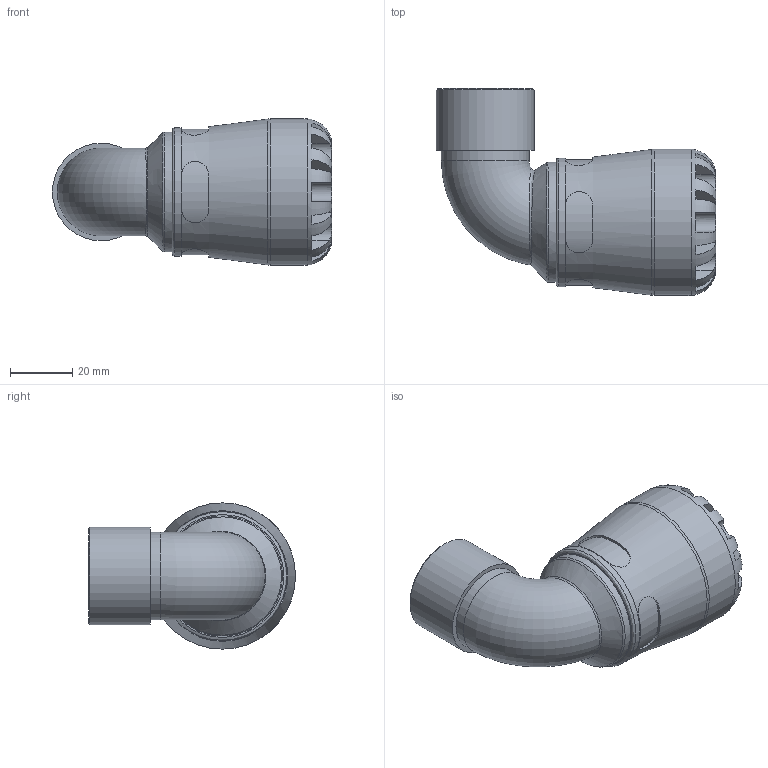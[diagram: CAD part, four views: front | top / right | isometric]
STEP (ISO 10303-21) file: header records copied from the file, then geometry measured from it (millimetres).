
FILE_DESCRIPTION(/* description */ ('PLASSON 90° ELBOW WITH THREADED FEMALE OFFTAKE 25X3/4" SERIES 1'),/* implementation_level */ '2;1');
FILE_NAME(/* name */ 'C:\Dropbox\KIMPROJECTS-Inventor\99-16-3568-Processing\S1\1015\101500025007_191500025007.ipt.stp',/* time_stamp */ '2017-07-30T11:51:56+03:00',/* author */ ('KIM'),/* organization */ (''),/* preprocessor_version */ 'ST-DEVELOPER v15.6',/* originating_system */ 'Autodesk Inventor 2015',/* authorisation */ '');
FILE_SCHEMA (('AUTOMOTIVE_DESIGN { 1 0 10303 214 3 1 1 }'));
Length unit declared in the file: millimetre
Products named in the file (1): 101500025007_191500025007
Bounding box: 89.68 x 66.5 x 47 mm (x, y, z)
Volume: 70018.9 mm3; surface area: 23606.1 mm2
Topology: 1 solids, 1 shells, 110 faces, 266 edges, 165 vertices
Faces by surface type: plane 62, cylinder 37, torus 6, bspline 3, cone 2
Full cylindrical faces by diameter (mm): 21.705 x2, 24.117 x1, 25 x1, 28.217 x1, 31.352 x1, 38.54 x1, 41.36 x1, 47 x1
Entity records: 4201 total; most frequent: CARTESIAN_POINT 1771, ORIENTED_EDGE 488, DIRECTION 487, EDGE_CURVE 244, AXIS2_PLACEMENT_3D 203, VERTEX_POINT 161, EDGE_LOOP 137, FACE_OUTER_BOUND 110
